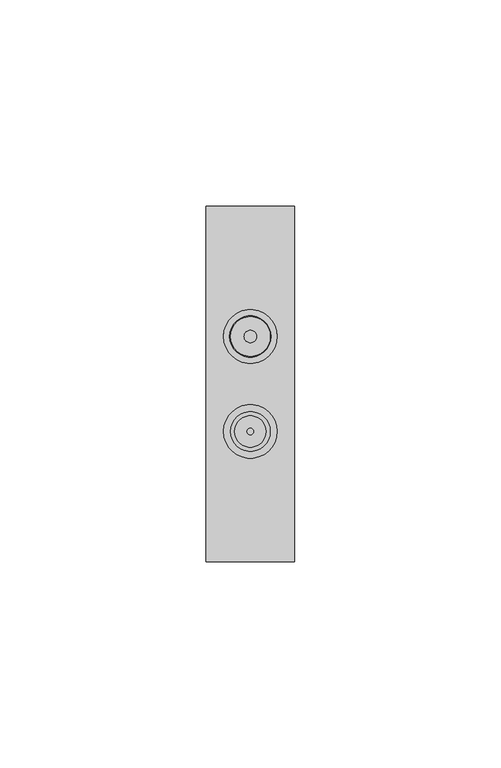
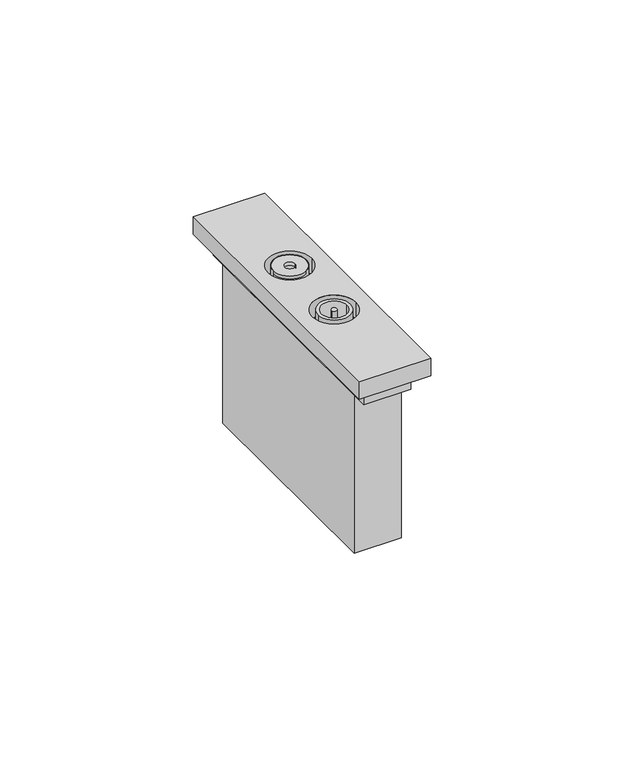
"""IFC4 building model written with IfcOpenShell, lengths in millimetres: electric appliance geometry, BT_LN-TV_A-K4214D : Presa Coassiale - Art. K4214D - 1M - Cover Nero."""

from ifc_helpers import new_model, si_unit, point, frame, frame_2d, origin, origin_with_axes, place, context, project, spatial, polyline, circle_curve, trimmed, segment, composite_curve, outline, extrude, source, transform, mapped, element, save
from ifc_brep_helpers import plane_surface, cylinder_surface, revolved_surface, advanced_brep


def electric_appliance_8558186f(model_context):
    return source(origin(), model_context, "Body", "SolidModel", [
        extrude(outline(composite_curve([segment(trimmed(circle_curve(frame_2d((0.0, 11.5)), 4.8), [point((-4.8, 11.5))], [point((4.8, 11.5))], False, "CARTESIAN"), True, "CONTINUOUS"), segment(trimmed(circle_curve(frame_2d((0.0, 11.5)), 4.8), [point((4.8, 11.5))], [point((-4.8, 11.5))], False, "CARTESIAN"), True, "CONTINUOUS")], self_intersect=False), holes=[composite_curve([segment(trimmed(circle_curve(frame_2d((0.0, 11.5)), 1.5), [point((-1.5, 11.5))], [point((1.5, 11.5))], True, "CARTESIAN"), True, "CONTINUOUS"), segment(trimmed(circle_curve(frame_2d((0.0, 11.5)), 1.5), [point((1.5, 11.5))], [point((-1.5, 11.5))], True, "CARTESIAN"), True, "CONTINUOUS")], self_intersect=False)]), frame((0.0, 0.0, 60.0), z_axis=(0.0, 0.0, 1.0), x_axis=(1.0, 0.0, 0.0)), (0.0, 0.0, 1.0), 1.0),
        extrude(outline(polyline([(-7.0, 39.0), (7.0, 39.0), (7.0, -39.0), (-7.0, -39.0), (-7.0, 39.0)]), holes=[composite_curve([segment(trimmed(circle_curve(frame_2d((0.0, 11.5)), 6.5), [point((-6.5, 11.5))], [point((6.5, 11.5))], True, "CARTESIAN"), True, "CONTINUOUS"), segment(trimmed(circle_curve(frame_2d((0.0, 11.5)), 6.5), [point((6.5, 11.5))], [point((-6.5, 11.5))], True, "CARTESIAN"), True, "CONTINUOUS")], self_intersect=False), composite_curve([segment(trimmed(circle_curve(frame_2d((0.0, -11.5)), 6.5), [point((-6.5, -11.5))], [point((6.5, -11.5))], True, "CARTESIAN"), True, "CONTINUOUS"), segment(trimmed(circle_curve(frame_2d((0.0, -11.5)), 6.5), [point((6.5, -11.5))], [point((-6.5, -11.5))], True, "CARTESIAN"), True, "CONTINUOUS")], self_intersect=False)]), frame((0.0, 0.0, 50.0), z_axis=(0.0, 0.0, 1.0), x_axis=(1.0, 0.0, 0.0)), (0.0, 0.0, 1.0), 5.5),
        extrude(outline(polyline([(-7.0, 34.0), (7.0, 34.0), (7.0, -34.0), (-7.0, -34.0), (-7.0, 34.0)])), origin_with_axes(), (0.0, 0.0, 1.0), 50.0),
        advanced_brep(
        [(5.0, 11.5, 61.0), (-5.0, 11.5, 61.0), (-4.8, 11.5, 61.0), (4.8, 11.5, 61.0), (5.0, 11.5, 50.0), (-5.0, 11.5, 50.0), (1.5, 11.5, 50.0), (-1.5, 11.5, 50.0), (-1.5, 11.5, 60.0), (1.5, 11.5, 60.0), (4.8, 11.5, 60.0), (-4.8, 11.5, 60.0)],
        [
            (0, 1, circle_curve(frame((0.0, 11.5, 61.0), z_axis=(0.0, 0.0, 1.0), x_axis=(-1.0, 0.0, 0.0)), 5.0)),
            (1, 0, circle_curve(frame((0.0, 11.5, 61.0), z_axis=(0.0, 0.0, 1.0), x_axis=(-1.0, 0.0, 0.0)), 5.0)),
            (2, 3, circle_curve(frame((0.0, 11.5, 61.0), z_axis=(0.0, 0.0, -1.0), x_axis=(-1.0, 0.0, 0.0)), 4.8)),
            (3, 2, circle_curve(frame((0.0, 11.5, 61.0), z_axis=(0.0, 0.0, -1.0), x_axis=(-1.0, 0.0, 0.0)), 4.8)),
            (4, 5, circle_curve(frame((0.0, 11.5, 50.0), z_axis=(0.0, 0.0, -1.0), x_axis=(-1.0, 0.0, 0.0)), 5.0)),
            (5, 4, circle_curve(frame((0.0, 11.5, 50.0), z_axis=(0.0, 0.0, -1.0), x_axis=(-1.0, 0.0, 0.0)), 5.0)),
            (6, 7, circle_curve(frame((0.0, 11.5, 50.0), z_axis=(0.0, 0.0, 1.0), x_axis=(-1.0, 0.0, 0.0)), 1.5)),
            (7, 6, circle_curve(frame((0.0, 11.5, 50.0), z_axis=(0.0, 0.0, 1.0), x_axis=(-1.0, 0.0, 0.0)), 1.5)),
            (0, 4),
            (5, 1),
            (7, 8),
            (8, 9, circle_curve(frame((0.0, 11.5, 60.0), z_axis=(0.0, 0.0, 1.0), x_axis=(-1.0, 0.0, 0.0)), 1.5)),
            (9, 6),
            (9, 8, circle_curve(frame((0.0, 11.5, 60.0), z_axis=(0.0, 0.0, 1.0), x_axis=(-1.0, 0.0, 0.0)), 1.5)),
            (10, 11, circle_curve(frame((0.0, 11.5, 60.0), z_axis=(0.0, 0.0, 1.0), x_axis=(-1.0, 0.0, 0.0)), 4.8)),
            (11, 10, circle_curve(frame((0.0, 11.5, 60.0), z_axis=(0.0, 0.0, 1.0), x_axis=(-1.0, 0.0, 0.0)), 4.8)),
            (10, 3),
            (2, 11),
        ],
        [
            plane_surface(frame((-5.0, 11.5, 61.0), z_axis=(0.0, 0.0, 1.0), x_axis=(0.0, -1.0, 0.0))),
            plane_surface(frame((-5.0, 11.5, 50.0), z_axis=(0.0, 0.0, -1.0), x_axis=(0.0, 1.0, 0.0))),
            cylinder_surface(frame((0.0, 11.5, 50.0), z_axis=(0.0, 0.0, 1.0), x_axis=(-1.0, 0.0, 0.0)), 5.0),
            revolved_surface(polyline([(-1.5, 11.5, 50.0), (-1.5, 11.5, 60.0)]), (0.0, 11.5, 61.0), (0.0, 0.0, -1.0)),
            plane_surface(frame((-1.5, 11.5, 60.0), z_axis=(0.0, 0.0, 1.0), x_axis=(0.0, -1.0, 0.0))),
            revolved_surface(polyline([(-4.8, 11.5, 61.0), (-4.8, 11.5, 60.0)]), (0.0, 11.5, 61.0), (0.0, 0.0, 1.0)),
        ],
        [
            (0, [[1, 2], [3, 4]]),
            (1, [[5, 6], [7, 8]]),
            (2, [[-1, 9, -6, 10]]),
            (2, [[-2, -10, -5, -9]]),
            (3, [[-8, 11, 12, 13]]),
            (3, [[-7, -13, 14, -11]]),
            (4, [[15, 16], [-12, -14]]),
            (5, [[-15, 17, -3, 18]]),
            (5, [[-16, -18, -4, -17]]),
        ],
    ),
        extrude(outline(composite_curve([segment(trimmed(circle_curve(frame_2d((0.0, -11.5)), 4.8), [point((4.8, -11.5))], [point((-4.8, -11.5))], False, "CARTESIAN"), True, "CONTINUOUS"), segment(trimmed(circle_curve(frame_2d((0.0, -11.5)), 4.8), [point((-4.8, -11.5))], [point((4.8, -11.5))], False, "CARTESIAN"), True, "CONTINUOUS")], self_intersect=False), holes=[composite_curve([segment(trimmed(circle_curve(frame_2d((0.0, -11.5)), 3.8), [point((3.8, -11.5))], [point((-3.8, -11.5))], True, "CARTESIAN"), True, "CONTINUOUS"), segment(trimmed(circle_curve(frame_2d((0.0, -11.5)), 3.8), [point((-3.8, -11.5))], [point((3.8, -11.5))], True, "CARTESIAN"), True, "CONTINUOUS")], self_intersect=False)]), frame((0.0, 0.0, 50.0), z_axis=(0.0, 0.0, 1.0), x_axis=(1.0, 0.0, 0.0)), (0.0, 0.0, 1.0), 11.0),
        extrude(outline(composite_curve([segment(trimmed(circle_curve(frame_2d((0.0, -11.5)), 0.8), [point((0.8, -11.5))], [point((-0.8, -11.5))], False, "CARTESIAN"), True, "CONTINUOUS"), segment(trimmed(circle_curve(frame_2d((0.0, -11.5)), 0.8), [point((-0.8, -11.5))], [point((0.8, -11.5))], False, "CARTESIAN"), True, "CONTINUOUS")], self_intersect=False)), frame((0.0, 0.0, 50.0), z_axis=(0.0, 0.0, 1.0), x_axis=(1.0, 0.0, 0.0)), (0.0, 0.0, 1.0), 11.0),
        extrude(outline(polyline([(-10.7, -43.0), (-10.7, 43.0), (10.7, 43.0), (10.7, -43.0), (-10.7, -43.0)]), holes=[composite_curve([segment(trimmed(circle_curve(frame_2d((0.0, 11.5)), 6.5), [point((6.5, 11.5))], [point((-6.5, 11.5))], True, "CARTESIAN"), True, "CONTINUOUS"), segment(trimmed(circle_curve(frame_2d((0.0, 11.5)), 6.5), [point((-6.5, 11.5))], [point((6.5, 11.5))], True, "CARTESIAN"), True, "CONTINUOUS")], self_intersect=False), composite_curve([segment(trimmed(circle_curve(frame_2d((0.0, -11.5)), 6.5), [point((6.5, -11.5))], [point((-6.5, -11.5))], True, "CARTESIAN"), True, "CONTINUOUS"), segment(trimmed(circle_curve(frame_2d((0.0, -11.5)), 6.5), [point((-6.5, -11.5))], [point((6.5, -11.5))], True, "CARTESIAN"), True, "CONTINUOUS")], self_intersect=False)]), frame((0.0, 0.0, 55.5), z_axis=(0.0, 0.0, 1.0), x_axis=(1.0, 0.0, 0.0)), (0.0, 0.0, 1.0), 5.5),
    ])


if __name__ == "__main__":
    model = new_model("IFC4")
    model_context = context("Model", 3, world=origin())
    ifc_project = project(units=[si_unit("LENGTHUNIT", "METRE", prefix="MILLI")], contexts=[model_context])
    site = spatial("IfcSite", under=ifc_project)
    building = spatial("IfcBuilding", under=site)
    placement = place(None, origin())
    electric_appliance_shape = electric_appliance_8558186f(model_context)
    element("IfcElectricAppliance", 1, ObjectType="BT_LN-TV_A-K4214D : Presa Coassiale - Art. K4214D - 1M - Cover Nero", at=placement, inside=building, context=model_context, shape_type="MappedRepresentation", body=[
        mapped(electric_appliance_shape, transform((0.0, 0.0, 0.0), x_axis=(1.0, 0.0, 0.0), y_axis=(0.0, 1.0, 0.0), z_axis=(0.0, 0.0, 1.0))),
    ])
    save(model, "model.ifc")
